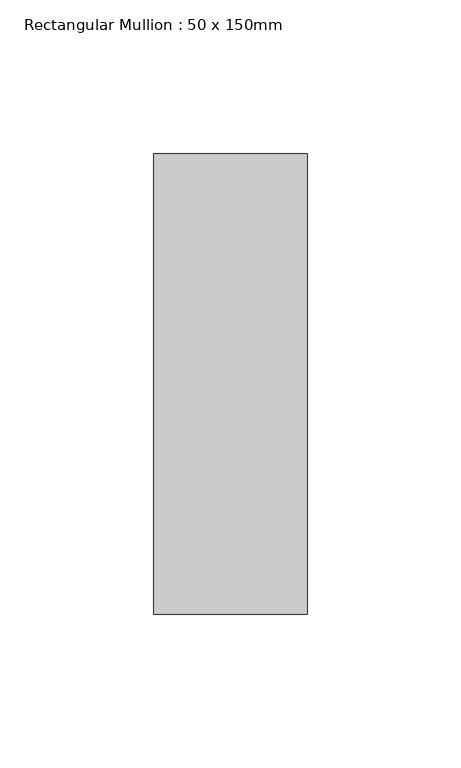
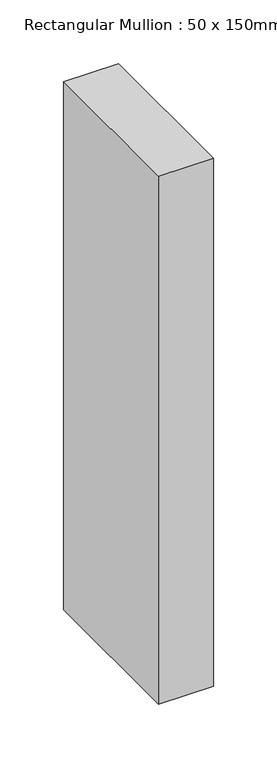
"""IFC4 building model written with IfcOpenShell, lengths in millimetres: member geometry, Rectangular Mullion : 50 x 150mm."""

from ifc_helpers import new_model, si_unit, frame, origin, place, context, project, spatial, polyline, outline, extrude, source, transform, mapped, element, save


def rectangular_mullion_50_x_150mm_77e6cf30(model_context):
    return source(origin(), model_context, "Body", "SweptSolid", [
        extrude(outline(polyline([(25.0, 75.0), (25.0, -75.0), (-25.0, -75.0), (-25.0, 75.0), (25.0, 75.0)])), frame((0.0, 0.0, -507.0833331), z_axis=(0.0, 0.0, 1.0), x_axis=(1.0, 0.0, 0.0)), (0.0, 0.0, 1.0), 507.0833331),
    ])


if __name__ == "__main__":
    model = new_model("IFC4")
    model_context = context("Model", 3, world=origin())
    ifc_project = project(units=[si_unit("LENGTHUNIT", "METRE", prefix="MILLI")], contexts=[model_context])
    site = spatial("IfcSite", under=ifc_project)
    building = spatial("IfcBuilding", under=site)
    placement = place(None, origin())
    rectangular_mullion_50_x_150mm_shape = rectangular_mullion_50_x_150mm_77e6cf30(model_context)
    element("IfcMember", 1, ObjectType="Rectangular Mullion : 50 x 150mm", at=placement, inside=building, context=model_context, shape_type="MappedRepresentation", body=[
        mapped(rectangular_mullion_50_x_150mm_shape, transform((0.0, 0.0, 0.0), x_axis=(1.0, 0.0, 0.0), y_axis=(0.0, 1.0, 0.0), z_axis=(0.0, 0.0, 1.0))),
    ])
    save(model, "model.ifc")
